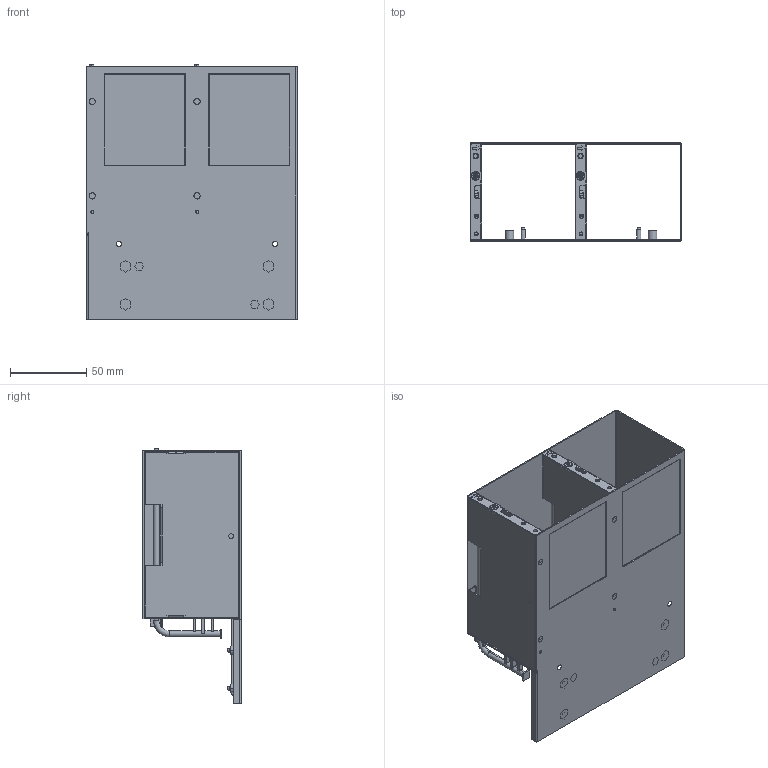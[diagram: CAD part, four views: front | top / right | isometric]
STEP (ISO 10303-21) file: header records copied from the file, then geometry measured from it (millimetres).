
FILE_DESCRIPTION((''),'2;1');
FILE_NAME('123400001973A_FAN-BRK-TOP_D760_ASM','2019-06-19T',('george_hsu'),(''),'PRO/ENGINEER BY PARAMETRIC TECHNOLOGY CORPORATION, 2012480','PRO/ENGINEER BY PARAMETRIC TECHNOLOGY CORPORATION, 2012480','');
FILE_SCHEMA(('AUTOMOTIVE_DESIGN { 1 0 10303 214 1 1 1 1 }'));
Length unit declared in the file: millimetre
Products named in the file (9): FAN-BRK-TOP_J2-D700; FAN-DIVIDER_J2; RIVET_05-RI-5D; FAN-LP-J2; FAN-DIVIDER_J2_ASM; RIVET; SO-M3X6P95; PIN-2P8X9P11; 123400001973A_FAN-BRK-TOP_D760_ASM
Assembly tree (21 placements, depth 3):
  123400001973A_FAN-BRK-TOP_D760_ASM
    FAN-BRK-TOP_J2-D700
    FAN-DIVIDER_J2_ASM  x2
      FAN-DIVIDER_J2
      RIVET_05-RI-5D
      FAN-LP-J2
    RIVET  x8
    SO-M3X6P95  x4
    PIN-2P8X9P11  x2
Bounding box: 138.6 x 64.55 x 167.5 mm (x, y, z)
Volume: 65587.2 mm3; surface area: 159937.8 mm2
Topology: 23 solids, 23 shells, 1023 faces, 2495 edges, 1534 vertices
Faces by surface type: plane 477, cylinder 366, cone 84, torus 44, bspline 36, sphere 16
Entity records: 19353 total; most frequent: CARTESIAN_POINT 5230, DIRECTION 2639, ORIENTED_EDGE 2458, EDGE_CURVE 1229, AXIS2_PLACEMENT_3D 953, VERTEX_POINT 747, VECTOR 733, LINE 733
